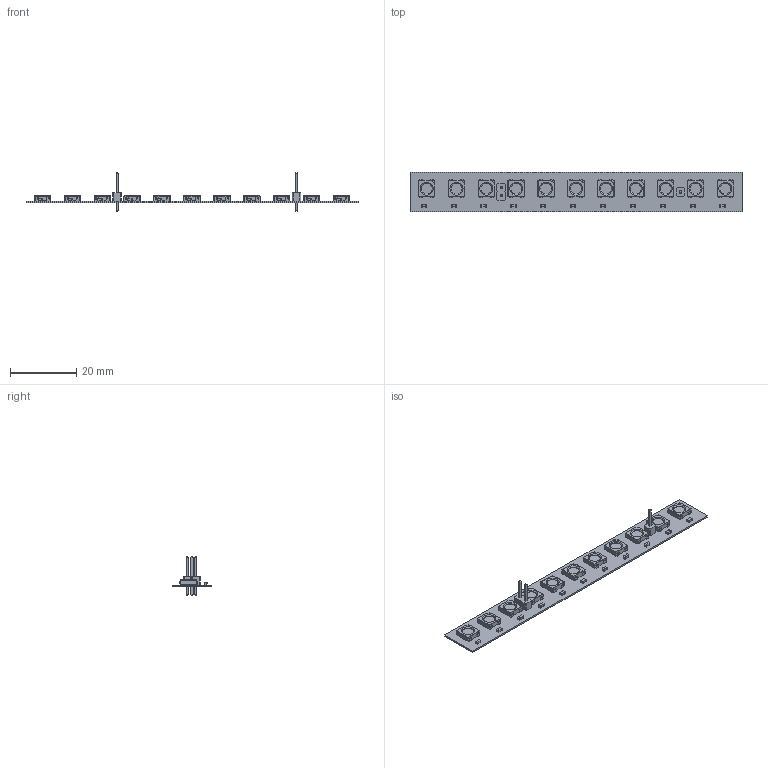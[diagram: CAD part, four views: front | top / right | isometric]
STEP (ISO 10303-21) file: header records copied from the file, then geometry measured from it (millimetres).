
FILE_DESCRIPTION(('FreeCAD Model'),'2;1');
FILE_NAME('Open CASCADE Shape Model','2023-06-28T08:26:37',('Author'),( ''),'Open CASCADE STEP processor 7.5','FreeCAD','Unknown');
FILE_SCHEMA(('AUTOMOTIVE_DESIGN { 1 0 10303 214 1 1 1 1 }'));
Length unit declared in the file: millimetre
Products named in the file (29): leds_bar; Board_Geoms_ce4f; Pcb_ce4f; Step_Models_ce4f; Top_ce4f; C9_C_0603_1608Metric_a45d3c0dfb96; D3_LED_WS2812B_PLCC4_50x50mm_P32mm_60b0e5bfb652; D9_LED_WS2812B_PLCC4_50x50mm_P32mm_e4124a771c69; D11_LED_WS2812B_PLCC4_50x50mm_P32mm_cbe5e9199d2d; C6_C_0603_1608Metric_f8be92c2792f; C4_C_0603_1608Metric_48532d190df3; C10_C_0603_1608Metric_cf850ff3e4e5; C11_C_0603_1608Metric_beb7073f0427; C2_C_0603_1608Metric_d1cfcbf39447; C3_C_0603_1608Metric_9d6b401d1735; C5_C_0603_1608Metric_158ee942e031; D2_LED_WS2812B_PLCC4_50x50mm_P32mm_dda57a21dcd5; C1_C_0603_1608Metric_f5ffacd9d3d0; D10_LED_WS2812B_PLCC4_50x50mm_P32mm_285ca06f806a; C8_C_0603_1608Metric_4d33feeccd9f; D1_LED_WS2812B_PLCC4_50x50mm_P32mm_b5ce22c91f73; D5_LED_WS2812B_PLCC4_50x50mm_P32mm_3287522f9852; J1_PinHeader_1x02_P254mm_Vertical_b1863805e4a1; Vss1_PinHeader_1x01_P254mm_Vertical_81e319897369; D6_LED_WS2812B_PLCC4_50x50mm_P32mm_273af5bca987; D4_LED_WS2812B_PLCC4_50x50mm_P32mm_36a22d494908; D8_LED_WS2812B_PLCC4_50x50mm_P32mm_9e5daae55cc5; C7_C_0603_1608Metric_22a15be860ee; D7_LED_WS2812B_PLCC4_50x50mm_P32mm_08eed450ad0f
Assembly tree (28 placements, depth 4):
  leds_bar
    Board_Geoms_ce4f
      Pcb_ce4f
    Step_Models_ce4f
      Top_ce4f
        C9_C_0603_1608Metric_a45d3c0dfb96
        D3_LED_WS2812B_PLCC4_50x50mm_P32mm_60b0e5bfb652
        D9_LED_WS2812B_PLCC4_50x50mm_P32mm_e4124a771c69
        D11_LED_WS2812B_PLCC4_50x50mm_P32mm_cbe5e9199d2d
        C6_C_0603_1608Metric_f8be92c2792f
        C4_C_0603_1608Metric_48532d190df3
        C10_C_0603_1608Metric_cf850ff3e4e5
        C11_C_0603_1608Metric_beb7073f0427
        C2_C_0603_1608Metric_d1cfcbf39447
        C3_C_0603_1608Metric_9d6b401d1735
        C5_C_0603_1608Metric_158ee942e031
        D2_LED_WS2812B_PLCC4_50x50mm_P32mm_dda57a21dcd5
        C1_C_0603_1608Metric_f5ffacd9d3d0
        D10_LED_WS2812B_PLCC4_50x50mm_P32mm_285ca06f806a
        C8_C_0603_1608Metric_4d33feeccd9f
        D1_LED_WS2812B_PLCC4_50x50mm_P32mm_b5ce22c91f73
        D5_LED_WS2812B_PLCC4_50x50mm_P32mm_3287522f9852
        J1_PinHeader_1x02_P254mm_Vertical_b1863805e4a1
        Vss1_PinHeader_1x01_P254mm_Vertical_81e319897369
        D6_LED_WS2812B_PLCC4_50x50mm_P32mm_273af5bca987
        D4_LED_WS2812B_PLCC4_50x50mm_P32mm_36a22d494908
        D8_LED_WS2812B_PLCC4_50x50mm_P32mm_9e5daae55cc5
        C7_C_0603_1608Metric_22a15be860ee
        D7_LED_WS2812B_PLCC4_50x50mm_P32mm_08eed450ad0f
Bounding box: 100 x 12 x 11.54 mm (x, y, z)
Volume: 1044.6 mm3; surface area: 3752.5 mm2
Topology: 25 solids, 25 shells, 1145 faces, 3210 edges, 2110 vertices
Faces by surface type: plane 757, cylinder 377, cone 11
Full cylindrical faces by diameter (mm): 1 x3, 3.333 x11
Entity records: 45523 total; most frequent: CARTESIAN_POINT 6494, ORIENTED_EDGE 6420, DIRECTION 6268, EDGE_CURVE 3210, LINE 2500, VECTOR 2500, VERTEX_POINT 2110, AXIS2_PLACEMENT_3D 1884
